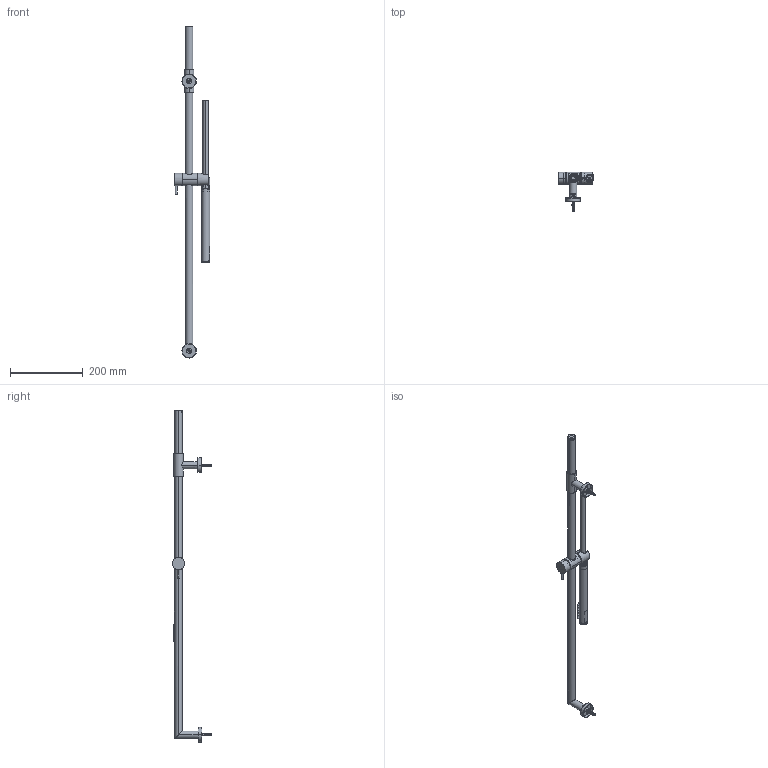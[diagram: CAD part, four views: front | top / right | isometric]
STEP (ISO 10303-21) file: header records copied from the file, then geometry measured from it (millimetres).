
FILE_DESCRIPTION((''),'2;1');
FILE_NAME('45617_ASM','2024-07-09T16:19:46',('carloff'),(''),'CREO PARAMETRIC BY PTC INC, 2022014','CREO PARAMETRIC BY PTC INC, 2022014','');
FILE_SCHEMA(('CONFIG_CONTROL_DESIGN'));
Length unit declared in the file: millimetre
Products named in the file (29): 45617_1; 45617_2; 45617_3; 45617_4; 45617_5; 45617_6; 45617_8; 45617_9; 45617_10; 45617_11; 45617_12; 45617_13; 45617_14; 45617_15; 45617_18; 45617_17; 45617_16; 45617_19; A308000110_ASM; A305000145_2; A305000145_1; A305000145_3; A305000145_5; A305000145_4; A305000145_6; A305000145_7; A305000145_ASM; A488000112; 45617_ASM
Assembly tree (35 placements, depth 3):
  45617_ASM
    A308000110_ASM
      45617_1  x2
      45617_2
      45617_3  x2
      45617_4
      45617_5
      45617_6
      45617_8
      45617_9  x2
      45617_10  x2
      45617_11
      45617_12
      45617_13
      45617_14
      45617_15
      45617_18  x2
      45617_17
      45617_16
      45617_19  x2
    A305000145_ASM
      A305000145_2
      A305000145_1
      A305000145_3
      A305000145_5
      A305000145_4
      A305000145_6
      A305000145_7  x2
    A488000112
Bounding box: 98.5 x 108 x 911.55 mm (x, y, z)
Volume: 209557.6 mm3; surface area: 256876.6 mm2
Topology: 37 solids, 37 shells, 1658 faces, 4052 edges, 2558 vertices
Faces by surface type: cylinder 839, plane 380, bspline 289, cone 116, torus 30, sphere 4
Entity records: 76721 total; most frequent: CARTESIAN_POINT 47357, ORIENTED_EDGE 6418, DIRECTION 5114, EDGE_CURVE 3209, VERTEX_POINT 2053, AXIS2_PLACEMENT_3D 1984, EDGE_LOOP 1558, FACE_OUTER_BOUND 1319
